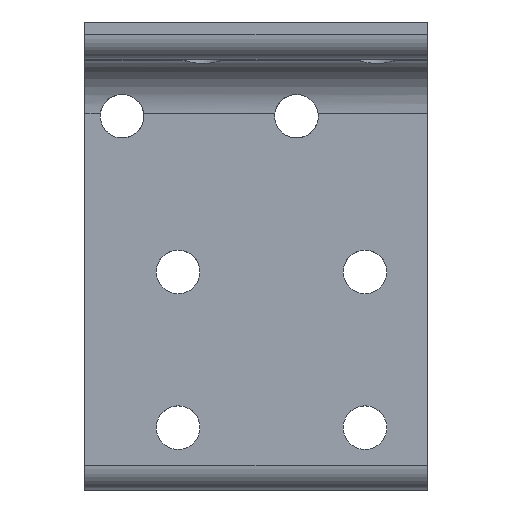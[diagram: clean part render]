
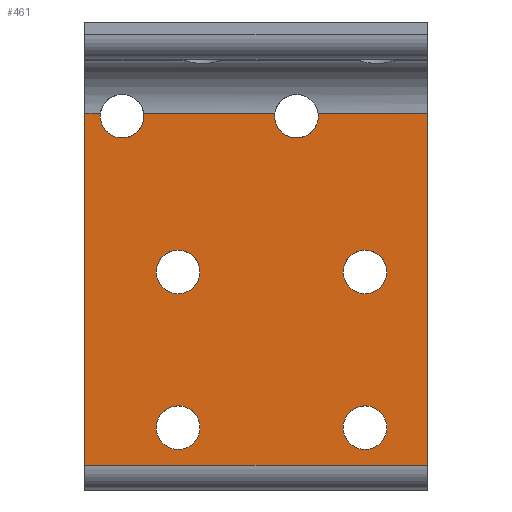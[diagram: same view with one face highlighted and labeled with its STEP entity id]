
A CAD part, top view. The second image highlights one B-rep face of the part: STEP entity #461.
In plain terms, the highlighted planar face has unit normal (0, 0, 1).
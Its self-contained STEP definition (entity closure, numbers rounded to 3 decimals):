
#45=LINE('',#717,#70);
#46=LINE('',#722,#71);
#47=LINE('',#726,#72);
#48=LINE('',#728,#73);
#49=LINE('',#730,#74);
#50=LINE('',#732,#75);
#70=VECTOR('',#581,1000.);
#71=VECTOR('',#584,1000.);
#72=VECTOR('',#587,1000.);
#73=VECTOR('',#588,1000.);
#74=VECTOR('',#589,1000.);
#75=VECTOR('',#590,1000.);
#101=ORIENTED_EDGE('',*,*,#219,.T.);
#102=ORIENTED_EDGE('',*,*,#220,.T.);
#103=ORIENTED_EDGE('',*,*,#221,.T.);
#104=ORIENTED_EDGE('',*,*,#222,.T.);
#105=ORIENTED_EDGE('',*,*,#223,.T.);
#106=ORIENTED_EDGE('',*,*,#224,.T.);
#107=ORIENTED_EDGE('',*,*,#225,.T.);
#108=ORIENTED_EDGE('',*,*,#226,.T.);
#109=ORIENTED_EDGE('',*,*,#227,.T.);
#110=ORIENTED_EDGE('',*,*,#228,.T.);
#111=ORIENTED_EDGE('',*,*,#229,.T.);
#112=ORIENTED_EDGE('',*,*,#230,.F.);
#219=EDGE_CURVE('',#278,#278,#318,.T.);
#220=EDGE_CURVE('',#279,#279,#319,.T.);
#221=EDGE_CURVE('',#280,#280,#320,.T.);
#222=EDGE_CURVE('',#281,#281,#321,.T.);
#223=EDGE_CURVE('',#282,#283,#45,.T.);
#224=EDGE_CURVE('',#283,#284,#322,.T.);
#225=EDGE_CURVE('',#284,#285,#46,.T.);
#226=EDGE_CURVE('',#285,#286,#323,.T.);
#227=EDGE_CURVE('',#286,#287,#47,.T.);
#228=EDGE_CURVE('',#287,#288,#48,.T.);
#229=EDGE_CURVE('',#288,#289,#49,.F.);
#230=EDGE_CURVE('',#282,#289,#50,.T.);
#278=VERTEX_POINT('',#710);
#279=VERTEX_POINT('',#712);
#280=VERTEX_POINT('',#714);
#281=VERTEX_POINT('',#716);
#282=VERTEX_POINT('',#718);
#283=VERTEX_POINT('',#719);
#284=VERTEX_POINT('',#721);
#285=VERTEX_POINT('',#723);
#286=VERTEX_POINT('',#725);
#287=VERTEX_POINT('',#727);
#288=VERTEX_POINT('',#729);
#289=VERTEX_POINT('',#731);
#318=CIRCLE('',#504,3.5);
#319=CIRCLE('',#505,3.5);
#320=CIRCLE('',#506,3.5);
#321=CIRCLE('',#507,3.5);
#322=CIRCLE('',#508,3.5);
#323=CIRCLE('',#509,3.5);
#347=EDGE_LOOP('',(#101));
#348=EDGE_LOOP('',(#102));
#349=EDGE_LOOP('',(#103));
#350=EDGE_LOOP('',(#104));
#351=EDGE_LOOP('',(#105,#106,#107,#108,#109,#110,#111,#112));
#402=FACE_BOUND('',#347,.T.);
#403=FACE_BOUND('',#348,.T.);
#404=FACE_BOUND('',#349,.T.);
#405=FACE_BOUND('',#350,.T.);
#406=FACE_BOUND('',#351,.T.);
#453=PLANE('',#503);
#461=ADVANCED_FACE('',(#402,#403,#404,#405,#406),#453,.F.);
#503=AXIS2_PLACEMENT_3D('',#708,#571,#572);
#504=AXIS2_PLACEMENT_3D('',#709,#573,#574);
#505=AXIS2_PLACEMENT_3D('',#711,#575,#576);
#506=AXIS2_PLACEMENT_3D('',#713,#577,#578);
#507=AXIS2_PLACEMENT_3D('',#715,#579,#580);
#508=AXIS2_PLACEMENT_3D('',#720,#582,#583);
#509=AXIS2_PLACEMENT_3D('',#724,#585,#586);
#571=DIRECTION('',(0.,0.,-1.));
#572=DIRECTION('',(0.,1.,0.));
#573=DIRECTION('',(0.,0.,-1.));
#574=DIRECTION('',(0.,1.,0.));
#575=DIRECTION('',(0.,0.,-1.));
#576=DIRECTION('',(0.,1.,0.));
#577=DIRECTION('',(0.,0.,-1.));
#578=DIRECTION('',(0.,1.,0.));
#579=DIRECTION('',(0.,0.,-1.));
#580=DIRECTION('',(0.,1.,0.));
#581=DIRECTION('',(-1.,0.,0.));
#582=DIRECTION('',(0.,0.,-1.));
#583=DIRECTION('',(0.,1.,0.));
#584=DIRECTION('',(-1.,0.,0.));
#585=DIRECTION('',(0.,0.,-1.));
#586=DIRECTION('',(0.,1.,0.));
#587=DIRECTION('',(-1.,0.,0.));
#588=DIRECTION('',(0.,-1.,0.));
#589=DIRECTION('',(-1.,0.,0.));
#590=DIRECTION('',(0.,-1.,0.));
#708=CARTESIAN_POINT('',(27.5,-6.,6.));
#709=CARTESIAN_POINT('',(17.5,-65.,6.));
#710=CARTESIAN_POINT('',(17.5,-61.5,6.));
#711=CARTESIAN_POINT('',(17.5,-40.,6.));
#712=CARTESIAN_POINT('',(17.5,-36.5,6.));
#713=CARTESIAN_POINT('',(-12.5,-40.,6.));
#714=CARTESIAN_POINT('',(-12.5,-36.5,6.));
#715=CARTESIAN_POINT('',(-12.5,-65.,6.));
#716=CARTESIAN_POINT('',(-12.5,-61.5,6.));
#717=CARTESIAN_POINT('',(-27.5,-14.5,6.));
#718=CARTESIAN_POINT('',(27.5,-14.5,6.));
#719=CARTESIAN_POINT('',(9.964,-14.5,6.));
#720=CARTESIAN_POINT('',(6.5,-15.,6.));
#721=CARTESIAN_POINT('',(3.036,-14.5,6.));
#722=CARTESIAN_POINT('',(-27.5,-14.5,6.));
#723=CARTESIAN_POINT('',(-18.036,-14.5,6.));
#724=CARTESIAN_POINT('',(-21.5,-15.,6.));
#725=CARTESIAN_POINT('',(-24.964,-14.5,6.));
#726=CARTESIAN_POINT('',(-27.5,-14.5,6.));
#727=CARTESIAN_POINT('',(-27.5,-14.5,6.));
#728=CARTESIAN_POINT('',(-27.5,-6.,6.));
#729=CARTESIAN_POINT('',(-27.5,-71.,6.));
#730=CARTESIAN_POINT('',(27.5,-71.,6.));
#731=CARTESIAN_POINT('',(27.5,-71.,6.));
#732=CARTESIAN_POINT('',(27.5,-6.,6.));
